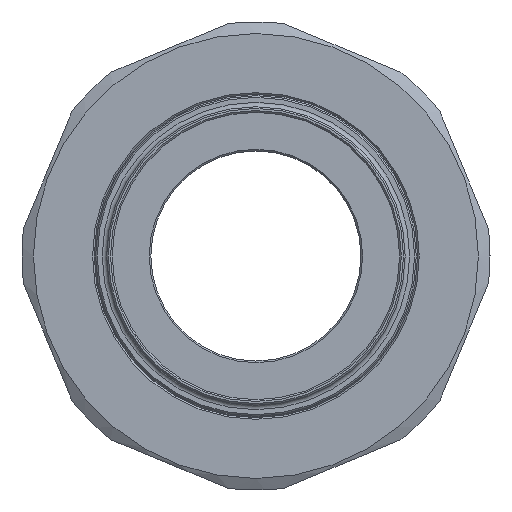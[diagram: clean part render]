
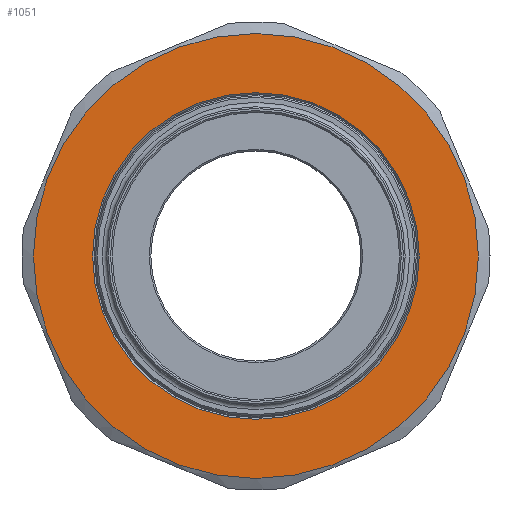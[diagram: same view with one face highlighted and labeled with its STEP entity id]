
A CAD part, left-side view. The second image highlights one B-rep face of the part: STEP entity #1051.
In plain terms, the highlighted planar face has unit normal (-1, 0, 0).
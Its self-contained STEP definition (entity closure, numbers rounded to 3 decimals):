
#36=FACE_BOUND('',#199,.T.);
#95=PLANE('',#1217);
#133=FACE_OUTER_BOUND('',#198,.T.);
#198=EDGE_LOOP('',(#815));
#199=EDGE_LOOP('',(#816));
#371=CIRCLE('',#1197,40.25);
#381=CIRCLE('',#1216,29.55);
#474=VERTEX_POINT('',#1821);
#483=VERTEX_POINT('',#1853);
#596=EDGE_CURVE('',#474,#474,#371,.T.);
#609=EDGE_CURVE('',#483,#483,#381,.T.);
#815=ORIENTED_EDGE('',*,*,#596,.T.);
#816=ORIENTED_EDGE('',*,*,#609,.F.);
#1051=ADVANCED_FACE('',(#133,#36),#95,.T.);
#1197=AXIS2_PLACEMENT_3D('',#1823,#1405,#1406);
#1216=AXIS2_PLACEMENT_3D('',#1854,#1446,#1447);
#1217=AXIS2_PLACEMENT_3D('',#1856,#1449,#1450);
#1405=DIRECTION('center_axis',(-1.,0.,0.));
#1406=DIRECTION('ref_axis',(0.,1.,0.));
#1446=DIRECTION('center_axis',(-1.,0.,0.));
#1447=DIRECTION('ref_axis',(0.,0.,-1.));
#1449=DIRECTION('center_axis',(-1.,0.,0.));
#1450=DIRECTION('ref_axis',(0.,0.,1.));
#1821=CARTESIAN_POINT('',(-25.,-40.25,0.));
#1823=CARTESIAN_POINT('Origin',(-25.,0.,0.));
#1853=CARTESIAN_POINT('',(-25.,0.,29.55));
#1854=CARTESIAN_POINT('Origin',(-25.,0.,0.));
#1856=CARTESIAN_POINT('Origin',(-25.,0.,0.));
